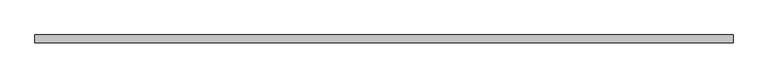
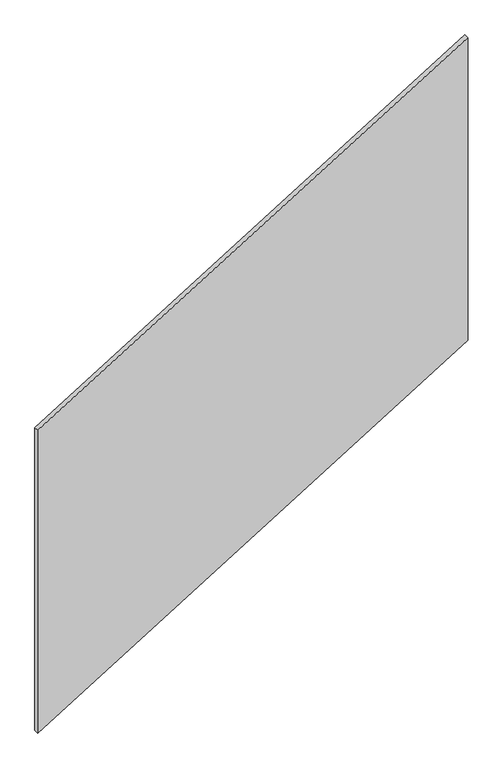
"""IFC4 building model written with IfcOpenShell, lengths in millimetres: proxy geometry, LIVERS_RZR - Glass Panel : LIVERS_RZR - Glass Panel."""

from ifc_helpers import new_model, si_unit, frame, origin, place, context, project, spatial, polyline, outline, extrude, source, transform, mapped, element, save


def building_element_proxy_1adf6c0d(model_context):
    return source(origin(), model_context, "Body", "SweptSolid", [
        extrude(outline(polyline([(373.6850123, 1081.2919394), (1237.2850123, 1081.2919394), (524.3668031, -79.7180982), (-339.2331969, -79.7180982), (373.6850123, 1081.2919394)])), frame((0.0, 1.5872342, 0.0), z_axis=(0.0, 1.0, 0.0), x_axis=(0.0, 0.0, 1.0)), (0.0, 0.0, 1.0), 12.7001962),
    ])


if __name__ == "__main__":
    model = new_model("IFC4")
    model_context = context("Model", 3, world=origin())
    ifc_project = project(units=[si_unit("LENGTHUNIT", "METRE", prefix="MILLI")], contexts=[model_context])
    site = spatial("IfcSite", under=ifc_project)
    building = spatial("IfcBuilding", under=site)
    placement = place(None, origin())
    building_element_proxy_shape = building_element_proxy_1adf6c0d(model_context)
    element("IfcBuildingElementProxy", 1, Name="LIVERS_RZR - Glass Panel : LIVERS_RZR - Glass Panel", ObjectType="LIVERS_RZR - Glass Panel : LIVERS_RZR - Glass Panel", at=placement, inside=building, context=model_context, shape_type="MappedRepresentation", body=[
        mapped(building_element_proxy_shape, transform((0.0, 0.0, 0.0), x_axis=(1.0, 0.0, 0.0), y_axis=(0.0, 1.0, 0.0), z_axis=(0.0, 0.0, 1.0))),
    ])
    save(model, "model.ifc")
